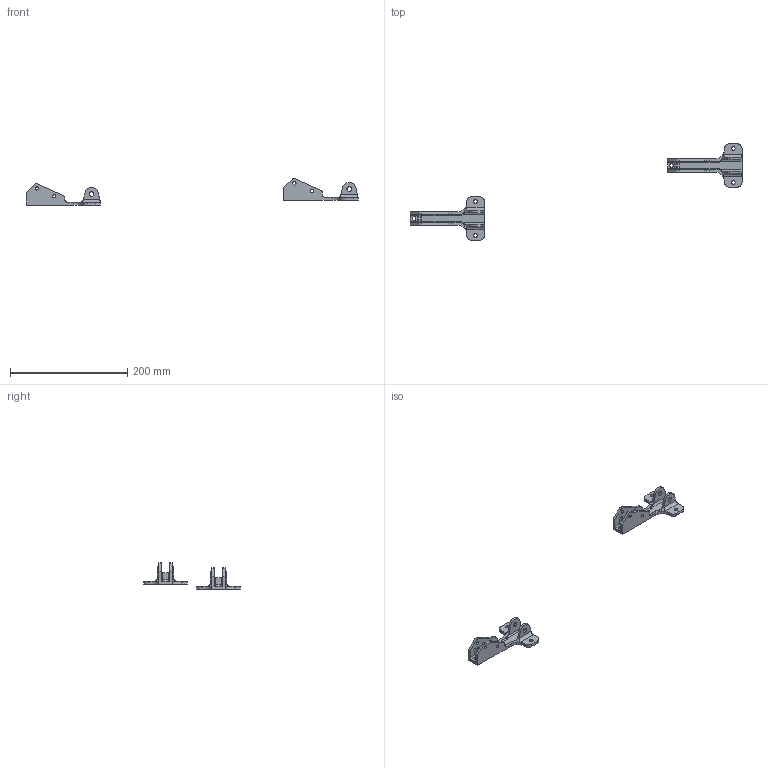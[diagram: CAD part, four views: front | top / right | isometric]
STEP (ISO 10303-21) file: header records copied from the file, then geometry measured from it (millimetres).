
FILE_DESCRIPTION(('CATIA V5 STEP Exchange'),'2;1');
FILE_NAME('C:\Users\Hashaam\Documents\CAD_Project\review\Brake_Platform_2_positioned.stp','2026-10-06T14:53:27+00:00',('none'),('none'),'CATIA Version 5 Release 21 GA (IN-10)','CATIA V5 STEP AP203','none');
FILE_SCHEMA(('CONFIG_CONTROL_DESIGN'));
Length unit declared in the file: millimetre
Products named in the file (1): Brake_Platform_2
Bounding box: 567 x 164.5 x 45.39 mm (x, y, z)
Volume: 69185.9 mm3; surface area: 40491 mm2
Topology: 2 solids, 2 shells, 184 faces, 520 edges, 330 vertices
Faces by surface type: cylinder 100, plane 68, sphere 12, torus 4
Entity records: 5891 total; most frequent: CARTESIAN_POINT 1311, ORIENTED_EDGE 1016, DIRECTION 772, EDGE_CURVE 508, AXIS2_PLACEMENT_3D 343, VERTEX_POINT 328, VECTOR 284, LINE 284
